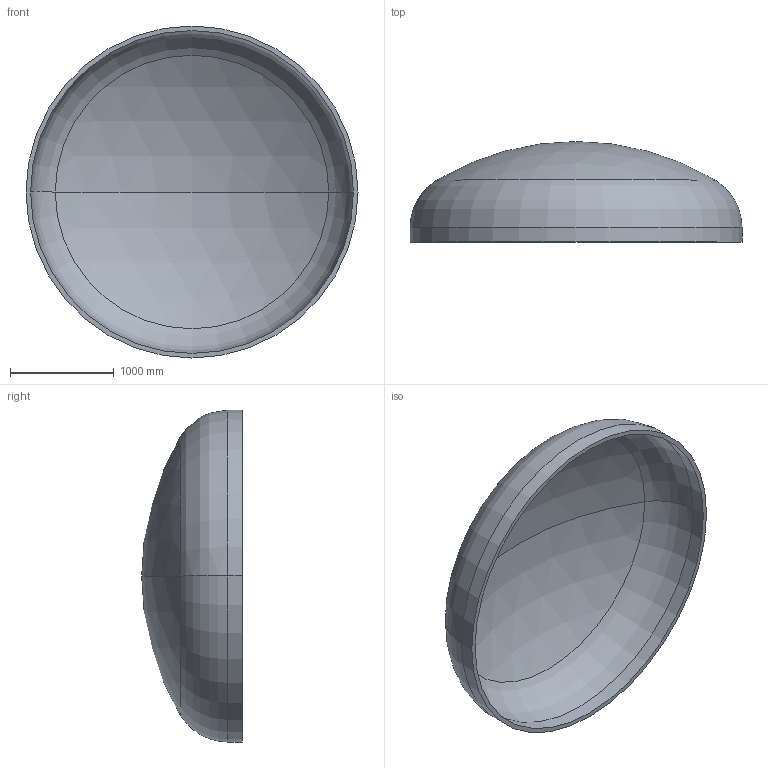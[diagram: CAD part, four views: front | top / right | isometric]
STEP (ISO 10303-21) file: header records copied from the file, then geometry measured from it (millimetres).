
FILE_DESCRIPTION (( 'STEP AP203' ), '1' );
FILE_NAME ('DIN 28013 Korbbogenform_-_Boden DIN 28013 - 3200 x 140 - I - s=44.step', '2016-07-01T18:38:54', ( '' ), ( '' ), 'SwSTEP 2.0', 'SolidWorks 2013', '' );
FILE_SCHEMA (( 'CONFIG_CONTROL_DESIGN' ));
Length unit declared in the file: millimetre
Products named in the file (1): DIN 28013 Korbbogenform_-_Boden DIN 28013 - 3200 x 140 - I - s=44
Bounding box: 3200 x 969.59 x 3200 mm (x, y, z)
Volume: 541816073.6 mm3; surface area: 25068303.6 mm2
Topology: 1 solids, 1 shells, 13 faces, 24 edges, 14 vertices
Faces by surface type: torus 4, cylinder 4, sphere 4, plane 1
Entity records: 407 total; most frequent: DIRECTION 72, CARTESIAN_POINT 52, ORIENTED_EDGE 48, AXIS2_PLACEMENT_3D 34, EDGE_CURVE 24, CIRCLE 20, VERTEX_POINT 14, EDGE_LOOP 14
